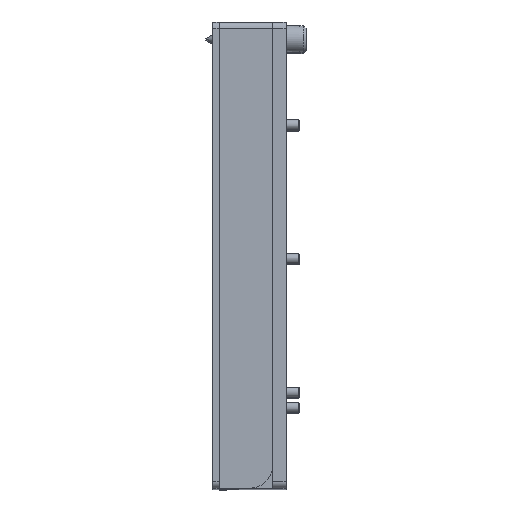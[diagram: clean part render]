
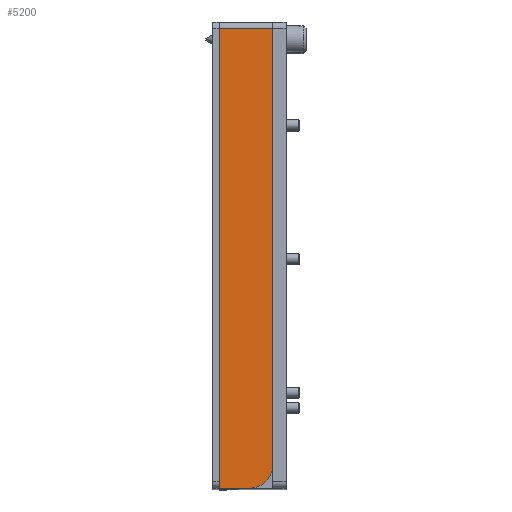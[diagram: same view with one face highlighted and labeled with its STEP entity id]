
A CAD part, top view. The second image highlights one B-rep face of the part: STEP entity #5200.
In plain terms, the highlighted planar face has unit normal (0, 0, 1).
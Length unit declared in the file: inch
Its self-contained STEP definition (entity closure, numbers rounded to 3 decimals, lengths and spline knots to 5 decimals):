
#5152=CARTESIAN_POINT('',(1.1151,1.62199,3.56557));
#5153=DIRECTION('',(0.0,0.0,-1.0));
#5154=DIRECTION('',(0.0,-1.0,0.0));
#5155=AXIS2_PLACEMENT_3D('',#5152,#5153,#5154);
#5156=PLANE('',#5155);
#5157=CARTESIAN_POINT('',(0.6209,5.81292,3.56557));
#5158=VERTEX_POINT('',#5157);
#5159=CARTESIAN_POINT('',(1.6209,5.81292,3.56557));
#5160=VERTEX_POINT('',#5159);
#5161=CARTESIAN_POINT('',(0.6209,5.81292,3.56557));
#5162=DIRECTION('',(1.0,0.0,0.0));
#5163=VECTOR('',#5162,1.0);
#5164=LINE('',#5161,#5163);
#5165=EDGE_CURVE('',#5158,#5160,#5164,.T.);
#5166=ORIENTED_EDGE('',*,*,#5165,.F.);
#5167=CARTESIAN_POINT('',(0.6209,-2.78083,3.56557));
#5168=VERTEX_POINT('',#5167);
#5169=CARTESIAN_POINT('',(0.6209,5.81292,3.56557));
#5170=DIRECTION('',(0.0,-1.0,0.0));
#5171=VECTOR('',#5170,8.59375);
#5172=LINE('',#5169,#5171);
#5173=EDGE_CURVE('',#5158,#5168,#5172,.T.);
#5174=ORIENTED_EDGE('',*,*,#5173,.T.);
#5175=CARTESIAN_POINT('',(1.1834,-2.78083,3.56557));
#5176=VERTEX_POINT('',#5175);
#5177=CARTESIAN_POINT('',(0.6209,-2.78083,3.56557));
#5178=DIRECTION('',(1.0,0.0,0.0));
#5179=VECTOR('',#5178,0.5625);
#5180=LINE('',#5177,#5179);
#5181=EDGE_CURVE('',#5168,#5176,#5180,.T.);
#5182=ORIENTED_EDGE('',*,*,#5181,.T.);
#5183=CARTESIAN_POINT('',(1.6209,-2.34333,3.56557));
#5184=VERTEX_POINT('',#5183);
#5185=CARTESIAN_POINT('',(1.1834,-2.34333,3.56557));
#5186=DIRECTION('',(0.0,0.0,1.0));
#5187=DIRECTION('',(-1.0,0.0,0.0));
#5188=AXIS2_PLACEMENT_3D('',#5185,#5186,#5187);
#5189=CIRCLE('',#5188,0.4375);
#5190=EDGE_CURVE('',#5176,#5184,#5189,.T.);
#5191=ORIENTED_EDGE('',*,*,#5190,.T.);
#5192=CARTESIAN_POINT('',(1.6209,-2.34333,3.56557));
#5193=DIRECTION('',(0.0,1.0,0.0));
#5194=VECTOR('',#5193,8.15625);
#5195=LINE('',#5192,#5194);
#5196=EDGE_CURVE('',#5184,#5160,#5195,.T.);
#5197=ORIENTED_EDGE('',*,*,#5196,.T.);
#5198=EDGE_LOOP('',(#5166,#5174,#5182,#5191,#5197));
#5199=FACE_OUTER_BOUND('',#5198,.T.);
#5200=ADVANCED_FACE('',(#5199),#5156,.F.);
